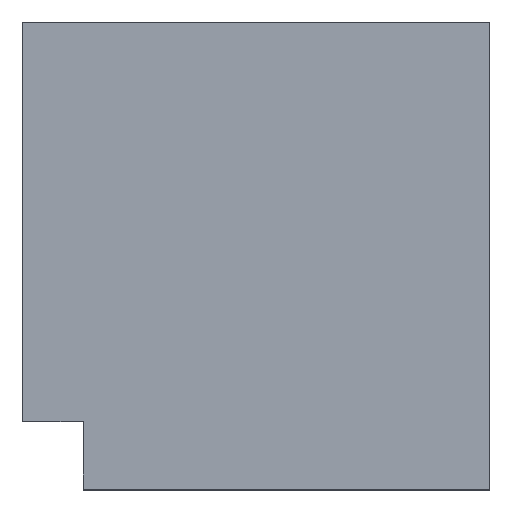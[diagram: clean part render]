
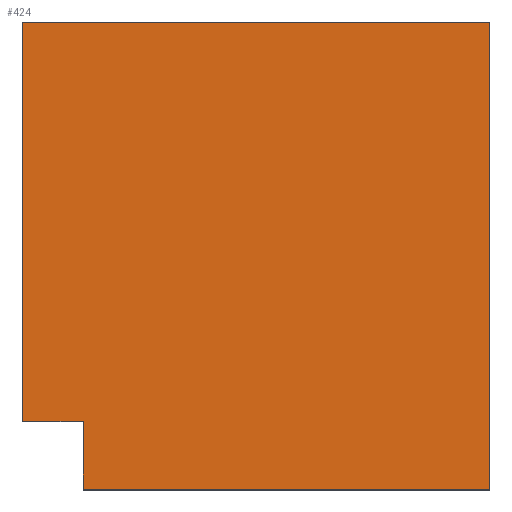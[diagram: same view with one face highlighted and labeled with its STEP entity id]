
A CAD part, top view. The second image highlights one B-rep face of the part: STEP entity #424.
In plain terms, the highlighted planar face has unit normal (0, 0, 1).
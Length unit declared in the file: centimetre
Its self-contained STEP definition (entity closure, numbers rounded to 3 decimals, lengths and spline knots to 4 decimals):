
#40 = LINE ( 'NONE', #917, #427 ) ;
#47 = EDGE_CURVE ( 'NONE', #534, #581, #777, .T. ) ;
#60 = ORIENTED_EDGE ( 'NONE', *, *, #166, .T. ) ;
#122 = CARTESIAN_POINT ( 'NONE',  ( 0., 0., 1000. ) ) ;
#131 = CARTESIAN_POINT ( 'NONE',  ( 0., 0., 1000. ) ) ;
#138 = LINE ( 'NONE', #330, #206 ) ;
#149 = DIRECTION ( 'NONE',  ( 1., 0., 0. ) ) ;
#162 = CARTESIAN_POINT ( 'NONE',  ( 0., 1000., 1000. ) ) ;
#166 = EDGE_CURVE ( 'NONE', #690, #534, #997, .T. ) ;
#201 = EDGE_CURVE ( 'NONE', #1006, #241, #40, .T. ) ;
#206 = VECTOR ( 'NONE', #346, 100. ) ;
#214 = ORIENTED_EDGE ( 'NONE', *, *, #201, .T. ) ;
#240 = CARTESIAN_POINT ( 'NONE',  ( 1000., 0., 1000. ) ) ;
#241 = VERTEX_POINT ( 'NONE', #458 ) ;
#264 = VECTOR ( 'NONE', #896, 100. ) ;
#266 = CARTESIAN_POINT ( 'NONE',  ( 130.4374, 0., 1000. ) ) ;
#300 = PLANE ( 'NONE',  #866 ) ;
#330 = CARTESIAN_POINT ( 'NONE',  ( 0., 145.2682, 1000. ) ) ;
#333 = EDGE_CURVE ( 'NONE', #432, #690, #365, .T. ) ;
#336 = ORIENTED_EDGE ( 'NONE', *, *, #737, .T. ) ;
#343 = CARTESIAN_POINT ( 'NONE',  ( 1000., 1000., 1000. ) ) ;
#346 = DIRECTION ( 'NONE',  ( 1., 0., 0. ) ) ;
#365 = LINE ( 'NONE', #381, #645 ) ;
#381 = CARTESIAN_POINT ( 'NONE',  ( 130.4374, 0., 1000. ) ) ;
#424 = ADVANCED_FACE ( 'NONE', ( #583 ), #300, .T. ) ;
#427 = VECTOR ( 'NONE', #738, 100. ) ;
#432 = VERTEX_POINT ( 'NONE', #935 ) ;
#458 = CARTESIAN_POINT ( 'NONE',  ( 0., 145.2682, 1000. ) ) ;
#486 = DIRECTION ( 'NONE',  ( 0., 0., 1. ) ) ;
#517 = ORIENTED_EDGE ( 'NONE', *, *, #1004, .T. ) ;
#534 = VERTEX_POINT ( 'NONE', #240 ) ;
#581 = VERTEX_POINT ( 'NONE', #694 ) ;
#583 = FACE_OUTER_BOUND ( 'NONE', #1010, .T. ) ;
#592 = ORIENTED_EDGE ( 'NONE', *, *, #47, .T. ) ;
#639 = CARTESIAN_POINT ( 'NONE',  ( 0., 1000., 1000. ) ) ;
#645 = VECTOR ( 'NONE', #908, 100. ) ;
#690 = VERTEX_POINT ( 'NONE', #266 ) ;
#692 = DIRECTION ( 'NONE',  ( 0., 1., 0. ) ) ;
#694 = CARTESIAN_POINT ( 'NONE',  ( 1000., 1000., 1000. ) ) ;
#737 = EDGE_CURVE ( 'NONE', #581, #1006, #1000, .T. ) ;
#738 = DIRECTION ( 'NONE',  ( 0., -1., 0. ) ) ;
#777 = LINE ( 'NONE', #343, #937 ) ;
#866 = AXIS2_PLACEMENT_3D ( 'NONE', #131, #486, #149 ) ;
#896 = DIRECTION ( 'NONE',  ( 1., 0., 0. ) ) ;
#908 = DIRECTION ( 'NONE',  ( 0., -1., 0. ) ) ;
#910 = DIRECTION ( 'NONE',  ( -1., 0., 0. ) ) ;
#917 = CARTESIAN_POINT ( 'NONE',  ( 0., 1000., 1000. ) ) ;
#935 = CARTESIAN_POINT ( 'NONE',  ( 130.4374, 145.2682, 1000. ) ) ;
#937 = VECTOR ( 'NONE', #692, 100. ) ;
#954 = ORIENTED_EDGE ( 'NONE', *, *, #333, .T. ) ;
#997 = LINE ( 'NONE', #122, #264 ) ;
#1000 = LINE ( 'NONE', #639, #1069 ) ;
#1004 = EDGE_CURVE ( 'NONE', #241, #432, #138, .T. ) ;
#1006 = VERTEX_POINT ( 'NONE', #162 ) ;
#1010 = EDGE_LOOP ( 'NONE', ( #954, #60, #592, #336, #214, #517 ) ) ;
#1069 = VECTOR ( 'NONE', #910, 100. ) ;
